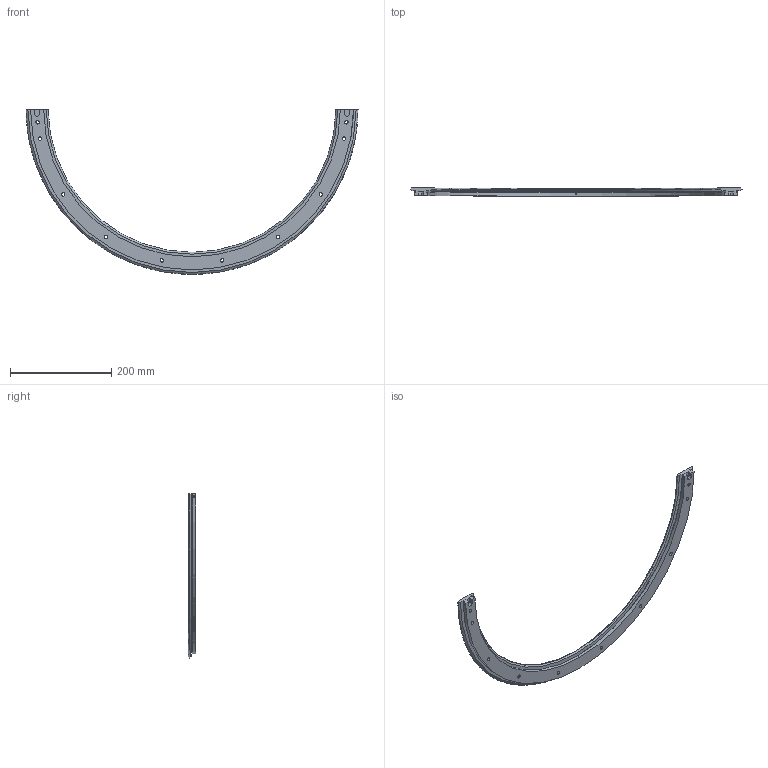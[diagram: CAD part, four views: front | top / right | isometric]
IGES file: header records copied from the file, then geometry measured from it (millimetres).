
Start section: 3D InterOp IGES (v. 2019 1.0.2), Spatial Corp. Copyright (c) 1999-2017.
Global section: file name: TR44 612 R180.igs; native system: Spatial Corp.; preprocessor: 3D InterOp GENERIC/IGES 3.0; author: Noname; organization: Noname; date: 20220628.092403; units: millimetre
Bounding box: 655.59 x 15.5 x 325.31 mm (x, y, z)
Surface area: 120875.6 mm2 (no closed solid volume)
Topology: 0 solids, 0 shells, 128 faces, 644 edges, 644 vertices
Faces by surface type: revolution 72, extrusion 56
